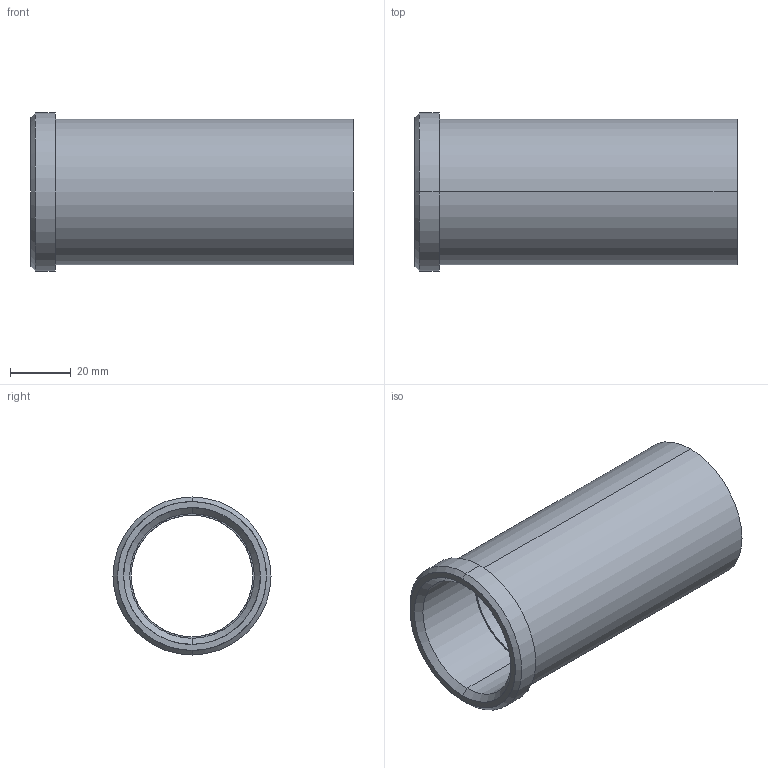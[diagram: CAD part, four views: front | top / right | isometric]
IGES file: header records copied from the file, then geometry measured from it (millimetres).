
Start section: START RECORD GO HERE.
Global section: file name: 353-40X106.igs; native system: DASSAULT SYSTEMES CATIA V5 R20 - www.3ds.com; preprocessor: CATIA Version 5 Release 20 ; author: Utente; organization: NB04-ASUS; date: 20210513.202155; units: millimetre
Bounding box: 106 x 52 x 52 mm (x, y, z)
Surface area: 30822.9 mm2 (no closed solid volume)
Topology: 0 solids, 0 shells, 18 faces, 116 edges, 116 vertices
Faces by surface type: revolution 14, plane 4
